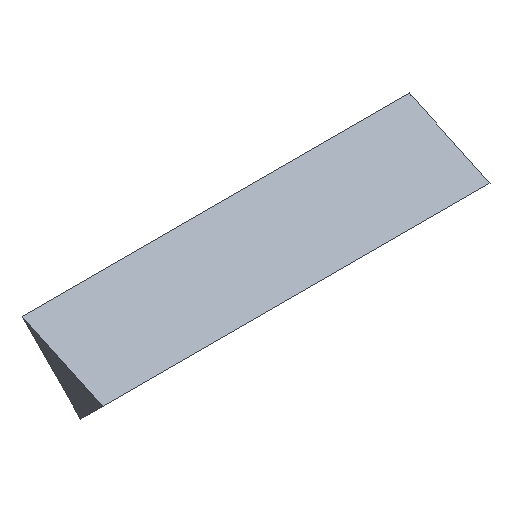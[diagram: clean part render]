
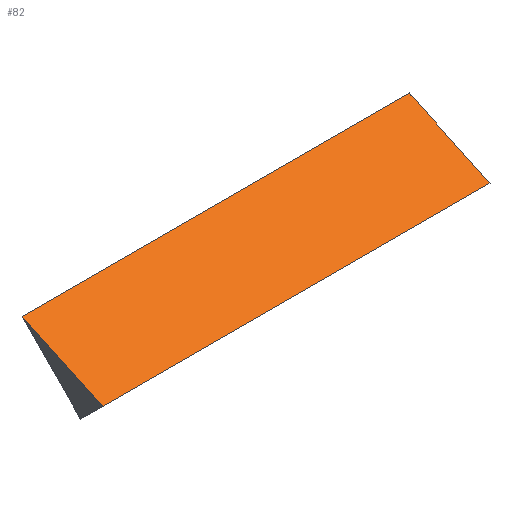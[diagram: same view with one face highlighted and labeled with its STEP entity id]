
A CAD part, isometric view. The second image highlights one B-rep face of the part: STEP entity #82.
In plain terms, the highlighted planar face has unit normal (0, -0.423, 0.906).
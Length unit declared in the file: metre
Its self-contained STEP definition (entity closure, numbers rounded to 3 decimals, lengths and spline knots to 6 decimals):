
#26=ORIENTED_EDGE('',*,*,#31,.F.);
#27=ORIENTED_EDGE('',*,*,#33,.T.);
#28=ORIENTED_EDGE('',*,*,#36,.T.);
#29=ORIENTED_EDGE('',*,*,#38,.T.);
#31=EDGE_CURVE('',#39,#41,#46,.T.);
#33=EDGE_CURVE('',#39,#42,#48,.T.);
#36=EDGE_CURVE('',#42,#44,#51,.T.);
#38=EDGE_CURVE('',#44,#41,#53,.T.);
#39=VERTEX_POINT('',#125);
#41=VERTEX_POINT('',#128);
#42=VERTEX_POINT('',#132);
#44=VERTEX_POINT('',#138);
#46=LINE('',#127,#55);
#48=LINE('',#131,#57);
#51=LINE('',#137,#60);
#53=LINE('',#141,#62);
#55=VECTOR('',#106,1.);
#57=VECTOR('',#110,1.);
#60=VECTOR('',#115,1.);
#62=VECTOR('',#119,1.);
#67=EDGE_LOOP('',(#26,#27,#28,#29));
#72=FACE_BOUND('',#67,.T.);
#77=PLANE('',#100);
#82=ADVANCED_FACE('',(#72),#77,.T.);
#100=AXIS2_PLACEMENT_3D('',#142,#120,#121);
#106=DIRECTION('',(0.,0.906,0.423));
#110=DIRECTION('',(1.,0.,0.));
#115=DIRECTION('',(0.,0.906,0.423));
#119=DIRECTION('',(-1.,0.,0.));
#120=DIRECTION('',(0.,-0.423,0.906));
#121=DIRECTION('',(1.,0.,0.));
#125=CARTESIAN_POINT('',(-0.0325,-0.030807,0.060754));
#127=CARTESIAN_POINT('',(-0.0325,-0.030809,0.060752));
#128=CARTESIAN_POINT('',(-0.0325,-0.017221,0.067088));
#131=CARTESIAN_POINT('',(0.06275,-0.030807,0.060754));
#132=CARTESIAN_POINT('',(0.0325,-0.030807,0.060754));
#137=CARTESIAN_POINT('',(0.0325,-0.030809,0.060752));
#138=CARTESIAN_POINT('',(0.0325,-0.017221,0.067088));
#141=CARTESIAN_POINT('',(0.06275,-0.017221,0.067088));
#142=CARTESIAN_POINT('',(0.,-0.135212,0.012069));
